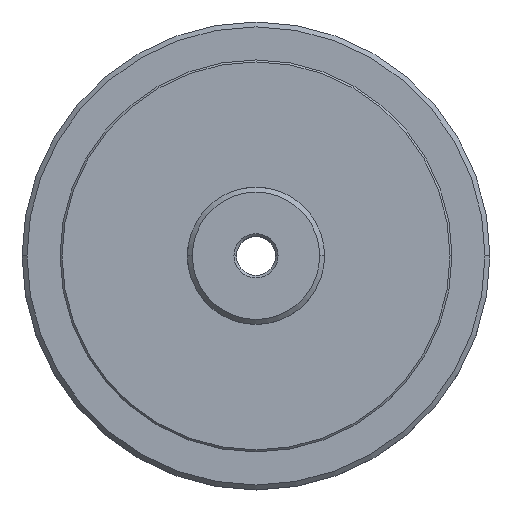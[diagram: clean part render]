
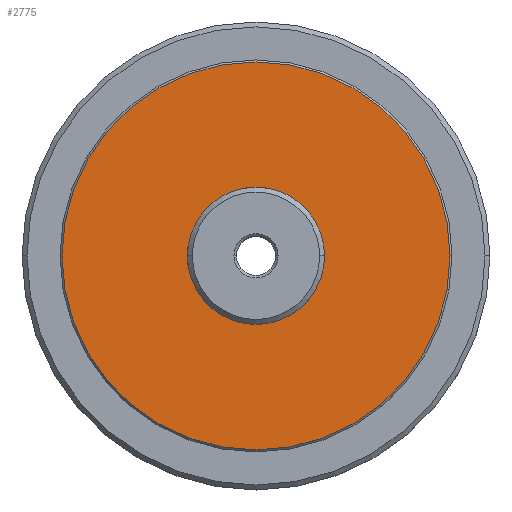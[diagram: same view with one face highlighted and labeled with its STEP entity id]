
A CAD part, top view. The second image highlights one B-rep face of the part: STEP entity #2775.
In plain terms, the highlighted planar face has unit normal (0, 0, 1).
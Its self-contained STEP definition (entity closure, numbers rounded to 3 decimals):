
#23 = ORIENTED_EDGE ( 'NONE', *, *, #146, .T. ) ;
#24 = CARTESIAN_POINT ( 'NONE',  ( -14., 0., 15.5 ) ) ;
#146 = EDGE_CURVE ( 'NONE', #1872, #1350, #1229, .T. ) ;
#194 = CARTESIAN_POINT ( 'NONE',  ( 14., 0., 15.5 ) ) ;
#316 = EDGE_LOOP ( 'NONE', ( #3140, #1791, #1765, #2557, #388, #2207 ) ) ;
#318 = EDGE_CURVE ( 'NONE', #3377, #2096, #2115, .T. ) ;
#388 = ORIENTED_EDGE ( 'NONE', *, *, #1638, .F. ) ;
#483 = EDGE_CURVE ( 'NONE', #2525, #1618, #3058, .T. ) ;
#491 = CARTESIAN_POINT ( 'NONE',  ( -14., 0., 15.5 ) ) ;
#502 = DIRECTION ( 'NONE',  ( -1., 0., 0. ) ) ;
#527 = CARTESIAN_POINT ( 'NONE',  ( 14., 0., 15.5 ) ) ;
#529 = AXIS2_PLACEMENT_3D ( 'NONE', #975, #2183, #3403 ) ;
#581 = CARTESIAN_POINT ( 'NONE',  ( 39.597, 0., 15.5 ) ) ;
#623 = CARTESIAN_POINT ( 'NONE',  ( 14., 0., 15.5 ) ) ;
#738 = DIRECTION ( 'NONE',  ( 0., 0., 1. ) ) ;
#761 = DIRECTION ( 'NONE',  ( 0., 0., 1. ) ) ;
#875 = DIRECTION ( 'NONE',  ( 0., 0., 1. ) ) ;
#879 = CARTESIAN_POINT ( 'NONE',  ( 0., 0., 15.5 ) ) ;
#975 = CARTESIAN_POINT ( 'NONE',  ( 0., 0., 15.5 ) ) ;
#1059 = DIRECTION ( 'NONE',  ( -1., 0., 0. ) ) ;
#1121 = DIRECTION ( 'NONE',  ( 0., 0., 1. ) ) ;
#1172 = FACE_BOUND ( 'NONE', #316, .T. ) ;
#1181 = DIRECTION ( 'NONE',  ( -1., 0., 0. ) ) ;
#1229 = CIRCLE ( 'NONE', #2942, 39.597 ) ;
#1249 = EDGE_CURVE ( 'NONE', #1350, #1872, #2224, .T. ) ;
#1336 = AXIS2_PLACEMENT_3D ( 'NONE', #2693, #3902, #1181 ) ;
#1337 = CIRCLE ( 'NONE', #1852, 14. ) ;
#1350 = VERTEX_POINT ( 'NONE', #2845 ) ;
#1361 = AXIS2_PLACEMENT_3D ( 'NONE', #3483, #761, #1960 ) ;
#1469 = EDGE_CURVE ( 'NONE', #3486, #1943, #1337, .T. ) ;
#1536 = ORIENTED_EDGE ( 'NONE', *, *, #1249, .T. ) ;
#1618 = VERTEX_POINT ( 'NONE', #3514 ) ;
#1638 = EDGE_CURVE ( 'NONE', #2096, #2525, #3887, .T. ) ;
#1765 = ORIENTED_EDGE ( 'NONE', *, *, #3824, .F. ) ;
#1791 = ORIENTED_EDGE ( 'NONE', *, *, #1469, .F. ) ;
#1852 = AXIS2_PLACEMENT_3D ( 'NONE', #2569, #3785, #1059 ) ;
#1872 = VERTEX_POINT ( 'NONE', #581 ) ;
#1937 = DIRECTION ( 'NONE',  ( -1., 0., 0. ) ) ;
#1943 = VERTEX_POINT ( 'NONE', #623 ) ;
#1960 = DIRECTION ( 'NONE',  ( -1., 0., 0. ) ) ;
#1996 = CARTESIAN_POINT ( 'NONE',  ( 0., 0., 15.5 ) ) ;
#2082 = DIRECTION ( 'NONE',  ( 1., 0., 0. ) ) ;
#2086 = DIRECTION ( 'NONE',  ( 0., 0., 1. ) ) ;
#2096 = VERTEX_POINT ( 'NONE', #491 ) ;
#2115 = CIRCLE ( 'NONE', #2815, 14. ) ;
#2171 = AXIS2_PLACEMENT_3D ( 'NONE', #1996, #3215, #502 ) ;
#2183 = DIRECTION ( 'NONE',  ( 0., 0., 1. ) ) ;
#2188 = AXIS2_PLACEMENT_3D ( 'NONE', #3603, #875, #2082 ) ;
#2207 = ORIENTED_EDGE ( 'NONE', *, *, #318, .F. ) ;
#2224 = CIRCLE ( 'NONE', #529, 39.597 ) ;
#2331 = DIRECTION ( 'NONE',  ( 1., 0., 0. ) ) ;
#2385 = PLANE ( 'NONE',  #2188 ) ;
#2469 = EDGE_CURVE ( 'NONE', #1943, #3377, #3084, .T. ) ;
#2525 = VERTEX_POINT ( 'NONE', #24 ) ;
#2557 = ORIENTED_EDGE ( 'NONE', *, *, #483, .F. ) ;
#2569 = CARTESIAN_POINT ( 'NONE',  ( 0., 0., 15.5 ) ) ;
#2693 = CARTESIAN_POINT ( 'NONE',  ( 0., 0., 15.5 ) ) ;
#2775 = ADVANCED_FACE ( 'NONE', ( #3895, #1172 ), #2385, .T. ) ;
#2815 = AXIS2_PLACEMENT_3D ( 'NONE', #879, #2086, #3307 ) ;
#2845 = CARTESIAN_POINT ( 'NONE',  ( -39.597, 0., 15.5 ) ) ;
#2911 = CIRCLE ( 'NONE', #3425, 14. ) ;
#2942 = AXIS2_PLACEMENT_3D ( 'NONE', #3847, #1121, #2331 ) ;
#3058 = CIRCLE ( 'NONE', #1336, 14. ) ;
#3084 = CIRCLE ( 'NONE', #1361, 14. ) ;
#3110 = EDGE_LOOP ( 'NONE', ( #1536, #23 ) ) ;
#3140 = ORIENTED_EDGE ( 'NONE', *, *, #2469, .F. ) ;
#3215 = DIRECTION ( 'NONE',  ( 0., 0., 1. ) ) ;
#3307 = DIRECTION ( 'NONE',  ( -1., 0., 0. ) ) ;
#3377 = VERTEX_POINT ( 'NONE', #194 ) ;
#3403 = DIRECTION ( 'NONE',  ( 1., 0., 0. ) ) ;
#3425 = AXIS2_PLACEMENT_3D ( 'NONE', #3458, #738, #1937 ) ;
#3458 = CARTESIAN_POINT ( 'NONE',  ( 0., 0., 15.5 ) ) ;
#3483 = CARTESIAN_POINT ( 'NONE',  ( 0., 0., 15.5 ) ) ;
#3486 = VERTEX_POINT ( 'NONE', #527 ) ;
#3514 = CARTESIAN_POINT ( 'NONE',  ( -14., 0., 15.5 ) ) ;
#3603 = CARTESIAN_POINT ( 'NONE',  ( 0., 0., 15.5 ) ) ;
#3785 = DIRECTION ( 'NONE',  ( 0., 0., 1. ) ) ;
#3824 = EDGE_CURVE ( 'NONE', #1618, #3486, #2911, .T. ) ;
#3847 = CARTESIAN_POINT ( 'NONE',  ( 0., 0., 15.5 ) ) ;
#3887 = CIRCLE ( 'NONE', #2171, 14. ) ;
#3895 = FACE_OUTER_BOUND ( 'NONE', #3110, .T. ) ;
#3902 = DIRECTION ( 'NONE',  ( 0., 0., 1. ) ) ;
